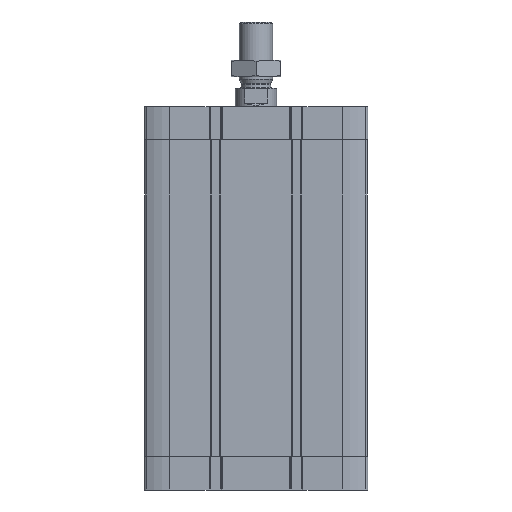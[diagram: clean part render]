
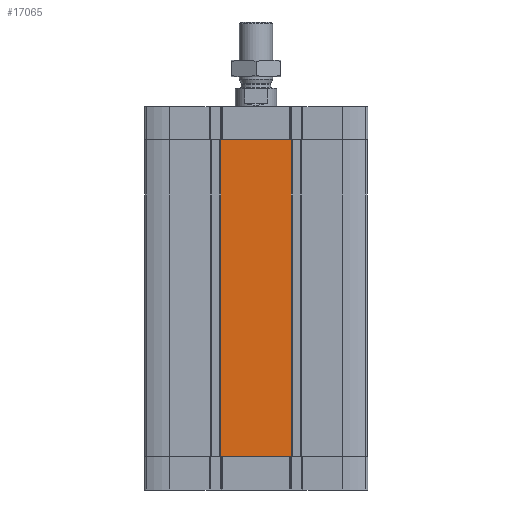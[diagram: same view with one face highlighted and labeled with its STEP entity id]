
A CAD part, front view. The second image highlights one B-rep face of the part: STEP entity #17065.
In plain terms, the highlighted planar face has unit normal (0, -1, 0).
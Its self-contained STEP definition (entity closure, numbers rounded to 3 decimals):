
#121 = VECTOR ( 'NONE', #3826, 1000. ) ;
#286 = LINE ( 'NONE', #4413, #5946 ) ;
#1445 = CARTESIAN_POINT ( 'NONE',  ( 20.687, -67., -20. ) ) ;
#1602 = CARTESIAN_POINT ( 'NONE',  ( -21.3, -67., -211. ) ) ;
#1653 = DIRECTION ( 'NONE',  ( 1., 0., 0. ) ) ;
#2272 = ORIENTED_EDGE ( 'NONE', *, *, #9913, .T. ) ;
#2420 = EDGE_CURVE ( 'NONE', #14839, #15800, #14322, .T. ) ;
#2574 = DIRECTION ( 'NONE',  ( 0., 0., -1. ) ) ;
#2635 = CARTESIAN_POINT ( 'NONE',  ( -20.687, -67., -20. ) ) ;
#2815 = EDGE_CURVE ( 'NONE', #4206, #17052, #5502, .T. ) ;
#3036 = DIRECTION ( 'NONE',  ( 0., 0., 1. ) ) ;
#3685 = ORIENTED_EDGE ( 'NONE', *, *, #15409, .F. ) ;
#3771 = VECTOR ( 'NONE', #4484, 1000. ) ;
#3826 = DIRECTION ( 'NONE',  ( 0., 0., 1. ) ) ;
#3951 = LINE ( 'NONE', #5418, #17900 ) ;
#4085 = EDGE_CURVE ( 'NONE', #14464, #15800, #286, .T. ) ;
#4206 = VERTEX_POINT ( 'NONE', #4969 ) ;
#4413 = CARTESIAN_POINT ( 'NONE',  ( 21.3, -67., -211. ) ) ;
#4484 = DIRECTION ( 'NONE',  ( 1., 0., 0. ) ) ;
#4745 = VERTEX_POINT ( 'NONE', #6666 ) ;
#4969 = CARTESIAN_POINT ( 'NONE',  ( -21.3, -67., -211. ) ) ;
#5063 = EDGE_CURVE ( 'NONE', #17052, #4745, #9765, .T. ) ;
#5216 = LINE ( 'NONE', #13467, #121 ) ;
#5418 = CARTESIAN_POINT ( 'NONE',  ( -67., -67., -211. ) ) ;
#5502 = LINE ( 'NONE', #18081, #3771 ) ;
#5934 = ORIENTED_EDGE ( 'NONE', *, *, #2420, .F. ) ;
#5946 = VECTOR ( 'NONE', #3036, 1000. ) ;
#6666 = CARTESIAN_POINT ( 'NONE',  ( 20.687, -67., -211. ) ) ;
#6909 = DIRECTION ( 'NONE',  ( 1., 0., 0. ) ) ;
#7296 = VERTEX_POINT ( 'NONE', #11617 ) ;
#7433 = CARTESIAN_POINT ( 'NONE',  ( 21.3, -67., -20. ) ) ;
#7573 = EDGE_CURVE ( 'NONE', #4206, #7296, #5216, .T. ) ;
#8748 = LINE ( 'NONE', #13073, #13987 ) ;
#8805 = CARTESIAN_POINT ( 'NONE',  ( -67., -67., -20. ) ) ;
#9765 = LINE ( 'NONE', #1602, #14657 ) ;
#9913 = EDGE_CURVE ( 'NONE', #4745, #14464, #3951, .T. ) ;
#10413 = DIRECTION ( 'NONE',  ( 1., 0., 0. ) ) ;
#10717 = ORIENTED_EDGE ( 'NONE', *, *, #4085, .T. ) ;
#10930 = DIRECTION ( 'NONE',  ( 0., -1., 0. ) ) ;
#11021 = PLANE ( 'NONE',  #15737 ) ;
#11141 = EDGE_LOOP ( 'NONE', ( #12093, #12587, #12967, #2272, #10717, #5934, #3685, #15175 ) ) ;
#11617 = CARTESIAN_POINT ( 'NONE',  ( -21.3, -67., -20. ) ) ;
#12093 = ORIENTED_EDGE ( 'NONE', *, *, #7573, .F. ) ;
#12582 = FACE_OUTER_BOUND ( 'NONE', #11141, .T. ) ;
#12587 = ORIENTED_EDGE ( 'NONE', *, *, #2815, .T. ) ;
#12967 = ORIENTED_EDGE ( 'NONE', *, *, #5063, .T. ) ;
#13073 = CARTESIAN_POINT ( 'NONE',  ( -21.3, -67., -20. ) ) ;
#13123 = EDGE_CURVE ( 'NONE', #7296, #14928, #14678, .T. ) ;
#13467 = CARTESIAN_POINT ( 'NONE',  ( -21.3, -67., -211. ) ) ;
#13852 = CARTESIAN_POINT ( 'NONE',  ( -67., -67., -211. ) ) ;
#13987 = VECTOR ( 'NONE', #10413, 1000. ) ;
#14141 = DIRECTION ( 'NONE',  ( 1., 0., 0. ) ) ;
#14322 = LINE ( 'NONE', #15329, #16611 ) ;
#14464 = VERTEX_POINT ( 'NONE', #14795 ) ;
#14657 = VECTOR ( 'NONE', #6909, 1000. ) ;
#14678 = LINE ( 'NONE', #8805, #15369 ) ;
#14795 = CARTESIAN_POINT ( 'NONE',  ( 21.3, -67., -211. ) ) ;
#14839 = VERTEX_POINT ( 'NONE', #1445 ) ;
#14928 = VERTEX_POINT ( 'NONE', #2635 ) ;
#15175 = ORIENTED_EDGE ( 'NONE', *, *, #13123, .F. ) ;
#15329 = CARTESIAN_POINT ( 'NONE',  ( -67., -67., -20. ) ) ;
#15369 = VECTOR ( 'NONE', #17536, 1000. ) ;
#15409 = EDGE_CURVE ( 'NONE', #14928, #14839, #8748, .T. ) ;
#15737 = AXIS2_PLACEMENT_3D ( 'NONE', #13852, #10930, #2574 ) ;
#15800 = VERTEX_POINT ( 'NONE', #7433 ) ;
#16257 = CARTESIAN_POINT ( 'NONE',  ( -20.687, -67., -211. ) ) ;
#16611 = VECTOR ( 'NONE', #14141, 1000. ) ;
#17052 = VERTEX_POINT ( 'NONE', #16257 ) ;
#17065 = ADVANCED_FACE ( 'NONE', ( #12582 ), #11021, .T. ) ;
#17536 = DIRECTION ( 'NONE',  ( 1., 0., 0. ) ) ;
#17900 = VECTOR ( 'NONE', #1653, 1000. ) ;
#18081 = CARTESIAN_POINT ( 'NONE',  ( -67., -67., -211. ) ) ;
